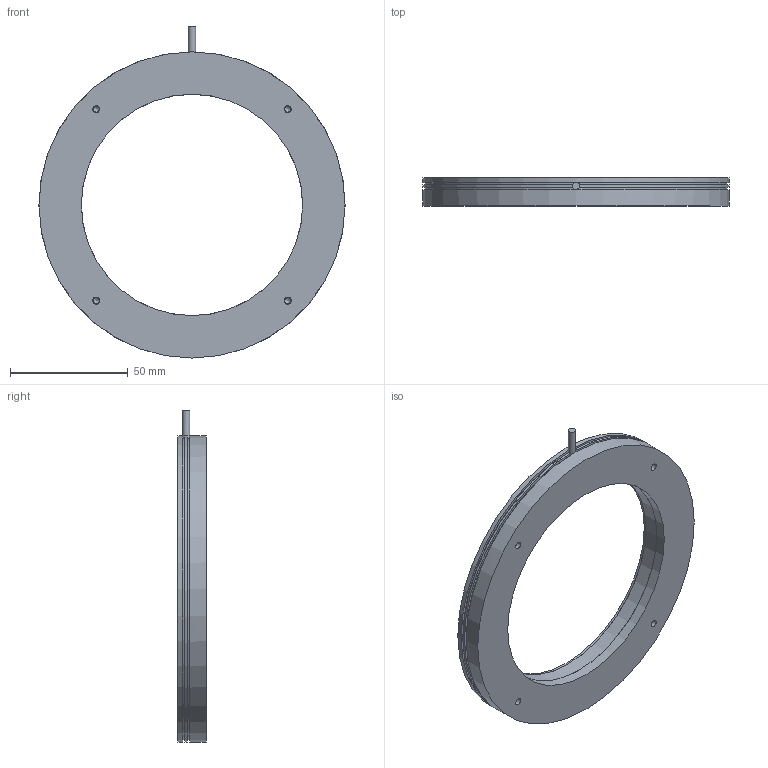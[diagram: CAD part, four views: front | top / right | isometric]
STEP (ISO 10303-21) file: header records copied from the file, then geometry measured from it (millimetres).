
FILE_DESCRIPTION(/* description */ (''),/* implementation_level */ '2;1');
FILE_NAME(/* name */ 'C:\#Vault-WorkDir\Konstruktions-Dokumente\Projekte\Zubehör allgemein\Falcon Beleuchtungen\153-00737_LR 130 xI-24-KFL5.stp',/* time_stamp */ '2018-07-25T09:34:00+02:00',/* author */ ('SensoPart'),/* organization */ ('SensoPart'),/* preprocessor_version */ 'ST-DEVELOPER v17',/* originating_system */ 'Autodesk Inventor 2018',/* authorisation */ '');
FILE_SCHEMA (('AUTOMOTIVE_DESIGN { 1 0 10303 214 3 1 1 }'));
Length unit declared in the file: millimetre
Products named in the file (1): GH-ENG-0026342_Shrinkwrap_1
Bounding box: 130 x 12 x 141 mm (x, y, z)
Volume: 75013.7 mm3; surface area: 34814.5 mm2
Topology: 2 solids, 2 shells, 46 faces, 126 edges, 88 vertices
Faces by surface type: cylinder 21, plane 21, cone 4
Full cylindrical faces by diameter (mm): 2.5 x4, 3 x4, 3.1 x1, 94 x3, 104.7 x1, 104.8 x1, 127.9 x1, 128 x3, 130 x2
Entity records: 1625 total; most frequent: CARTESIAN_POINT 283, DIRECTION 282, ORIENTED_EDGE 244, EDGE_CURVE 122, AXIS2_PLACEMENT_3D 120, VERTEX_POINT 88, CIRCLE 73, EDGE_LOOP 62
